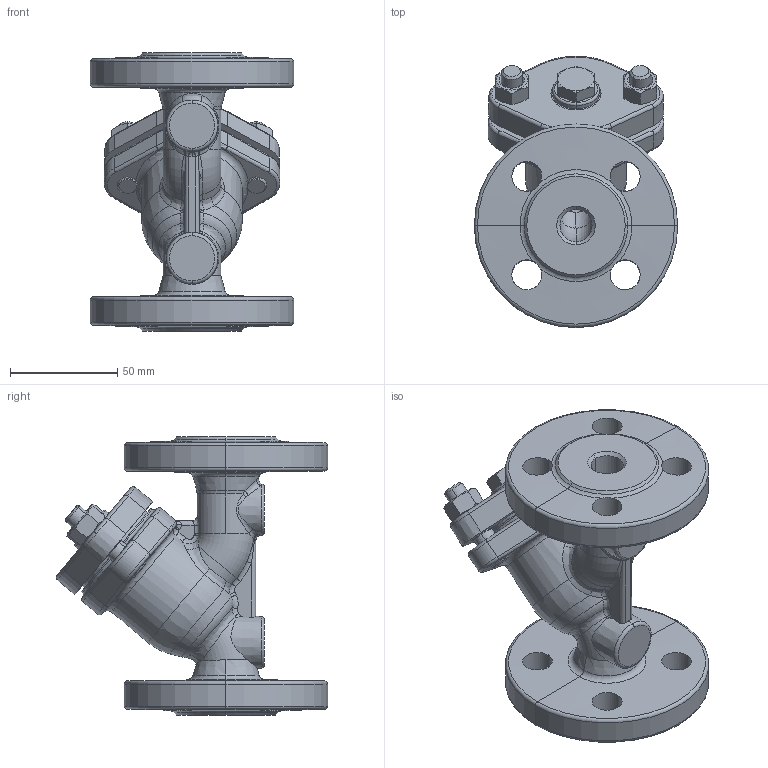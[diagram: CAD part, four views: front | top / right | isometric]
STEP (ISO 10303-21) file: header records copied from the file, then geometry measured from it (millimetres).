
FILE_DESCRIPTION (( 'STEP AP203' ), '1' );
FILE_NAME ('821_DN15 PN40.STEP', '2010-01-13T06:35:17', ( 'wtarnaws' ), ( '' ), 'SwSTEP 2.0', 'SolidWorks 2010', '' );
FILE_SCHEMA (( 'CONFIG_CONTROL_DESIGN' ));
Length unit declared in the file: millimetre
Products named in the file (6): Nakrêtka szeœciok¹tna PN-86_M-82144_M10; M10 x 30_PreviewCfg; 821_DN15 PN40; Kad³ub 15 - z; Pokrywa 15; KOREK 3-8_Default
Assembly tree (7 placements, depth 2):
  821_DN15 PN40
    M10 x 30_PreviewCfg  x2
    Pokrywa 15
    Kad³ub 15 - z
    KOREK 3-8_Default
    Nakrêtka szeœciok¹tna PN-86_M-82144_M10  x2
Bounding box: 95 x 126.72 x 130 mm (x, y, z)
Volume: 337311.6 mm3; surface area: 83690.1 mm2
Topology: 7 solids, 7 shells, 410 faces, 970 edges, 572 vertices
Faces by surface type: cylinder 111, cone 87, torus 85, bspline 63, plane 62, sphere 2
Entity records: 28302 total; most frequent: CARTESIAN_POINT 19537, ORIENTED_EDGE 1736, DIRECTION 1666, EDGE_CURVE 868, AXIS2_PLACEMENT_3D 732, VERTEX_POINT 512, CIRCLE 423, EDGE_LOOP 390
